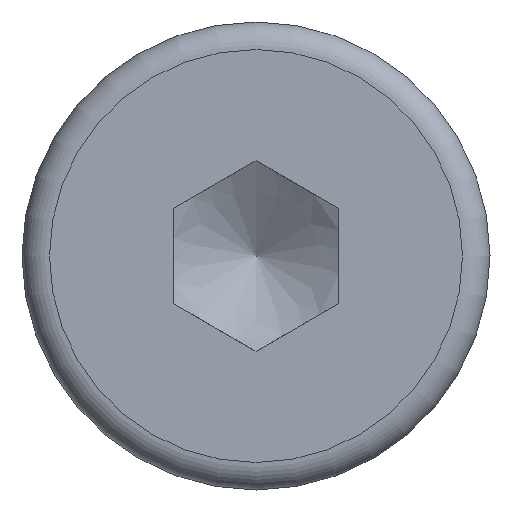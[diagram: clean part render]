
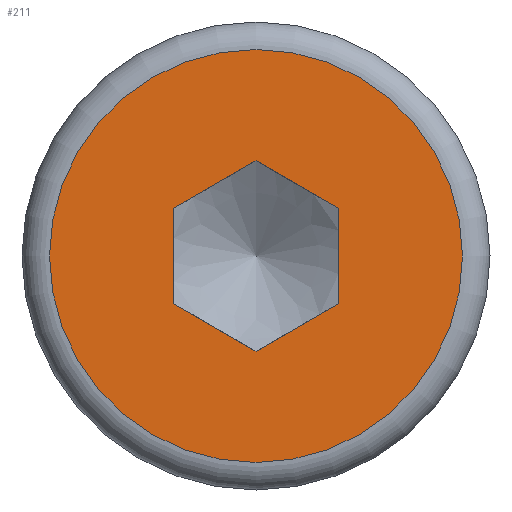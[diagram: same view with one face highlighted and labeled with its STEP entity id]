
A CAD part, left-side view. The second image highlights one B-rep face of the part: STEP entity #211.
In plain terms, the highlighted planar face has unit normal (-1, 0, 0).
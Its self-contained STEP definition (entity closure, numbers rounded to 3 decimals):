
#130=CARTESIAN_POINT('',(-3.5,3.75,0.0));
#131=VERTEX_POINT('',#130);
#132=CARTESIAN_POINT('',(-3.5,0.,0.0));
#133=DIRECTION('',(1.0,0.0,0.0));
#134=DIRECTION('',(0.0,-1.0,0.0));
#135=AXIS2_PLACEMENT_3D('',#132,#133,#134);
#136=CIRCLE('',#135,3.75);
#137=EDGE_CURVE('',#131,#131,#136,.T.);
#153=CARTESIAN_POINT('',(-3.5,2.991,0.0));
#154=DIRECTION('',(-1.0,0.0,0.0));
#155=DIRECTION('',(0.0,0.0,1.0));
#156=AXIS2_PLACEMENT_3D('',#153,#154,#155);
#157=PLANE('',#156);
#158=ORIENTED_EDGE('',*,*,#137,.F.);
#159=EDGE_LOOP('',(#158));
#160=FACE_OUTER_BOUND('',#159,.T.);
#161=CARTESIAN_POINT('',(-3.5,1.5,-0.866));
#162=VERTEX_POINT('',#161);
#163=CARTESIAN_POINT('',(-3.5,1.5,0.866));
#164=VERTEX_POINT('',#163);
#165=CARTESIAN_POINT('',(-3.5,1.5,-0.866));
#166=DIRECTION('',(0.0,0.0,1.0));
#167=VECTOR('',#166,1.732);
#168=LINE('',#165,#167);
#169=EDGE_CURVE('',#162,#164,#168,.T.);
#170=ORIENTED_EDGE('',*,*,#169,.T.);
#171=CARTESIAN_POINT('',(-3.5,0.,1.732));
#172=VERTEX_POINT('',#171);
#173=CARTESIAN_POINT('',(-3.5,1.5,0.866));
#174=DIRECTION('',(0.0,-0.866,0.5));
#175=VECTOR('',#174,1.732);
#176=LINE('',#173,#175);
#177=EDGE_CURVE('',#164,#172,#176,.T.);
#178=ORIENTED_EDGE('',*,*,#177,.T.);
#179=CARTESIAN_POINT('',(-3.5,-1.5,0.866));
#180=VERTEX_POINT('',#179);
#181=CARTESIAN_POINT('',(-3.5,0.0,1.732));
#182=DIRECTION('',(0.0,-0.866,-0.5));
#183=VECTOR('',#182,1.732);
#184=LINE('',#181,#183);
#185=EDGE_CURVE('',#172,#180,#184,.T.);
#186=ORIENTED_EDGE('',*,*,#185,.T.);
#187=CARTESIAN_POINT('',(-3.5,-1.5,-0.866));
#188=VERTEX_POINT('',#187);
#189=CARTESIAN_POINT('',(-3.5,-1.5,0.866));
#190=DIRECTION('',(0.0,0.0,-1.0));
#191=VECTOR('',#190,1.732);
#192=LINE('',#189,#191);
#193=EDGE_CURVE('',#180,#188,#192,.T.);
#194=ORIENTED_EDGE('',*,*,#193,.T.);
#195=CARTESIAN_POINT('',(-3.5,0.,-1.732));
#196=VERTEX_POINT('',#195);
#197=CARTESIAN_POINT('',(-3.5,-1.5,-0.866));
#198=DIRECTION('',(0.0,0.866,-0.5));
#199=VECTOR('',#198,1.732);
#200=LINE('',#197,#199);
#201=EDGE_CURVE('',#188,#196,#200,.T.);
#202=ORIENTED_EDGE('',*,*,#201,.T.);
#203=CARTESIAN_POINT('',(-3.5,0.,-1.732));
#204=DIRECTION('',(0.0,0.866,0.5));
#205=VECTOR('',#204,1.732);
#206=LINE('',#203,#205);
#207=EDGE_CURVE('',#196,#162,#206,.T.);
#208=ORIENTED_EDGE('',*,*,#207,.T.);
#209=EDGE_LOOP('',(#170,#178,#186,#194,#202,#208));
#210=FACE_BOUND('',#209,.T.);
#211=ADVANCED_FACE('',(#160,#210),#157,.T.);
